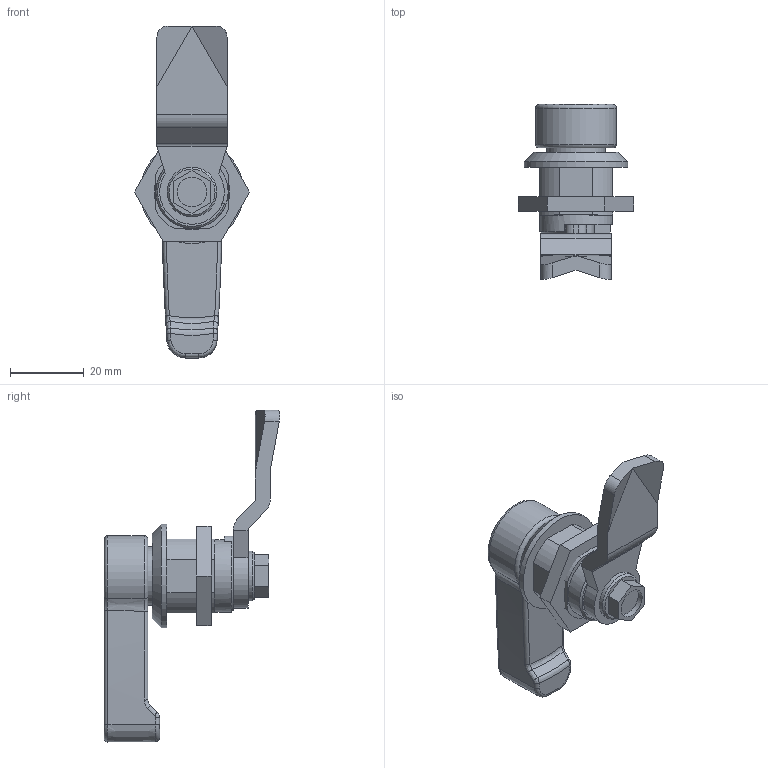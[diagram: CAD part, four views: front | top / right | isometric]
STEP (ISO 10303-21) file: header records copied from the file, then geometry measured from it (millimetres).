
FILE_DESCRIPTION (( 'STEP AP214' ), '1' );
FILE_NAME ('115-HGN-24-NI.step', '2022-04-28T06:14:22', ( '' ), ( '' ), 'SwSTEP 2.0', 'SolidWorks 2019', '' );
FILE_SCHEMA (( 'AUTOMOTIVE_DESIGN' ));
Length unit declared in the file: millimetre
Products named in the file (5): WB115_Zunge^WB115_BE_24; WB115_Gehäuse^WB115_BE_28; WB115_Betätigungswelle_Hebel^WB115_BE_HGN; 115-HGN-24-NI; WB115_Gegenmutter^WB115_BE
Assembly tree (4 placements, depth 2):
  115-HGN-24-NI
    WB115_Gehäuse^WB115_BE_28
    WB115_Betätigungswelle_Hebel^WB115_BE_HGN
    WB115_Zunge^WB115_BE_24
    WB115_Gegenmutter^WB115_BE
Bounding box: 31.18 x 47.59 x 89.99 mm (x, y, z)
Volume: 24783.8 mm3; surface area: 12223 mm2
Topology: 4 solids, 4 shells, 132 faces, 314 edges, 199 vertices
Faces by surface type: plane 67, cylinder 30, bspline 18, torus 10, cone 6, sphere 1
Full cylindrical faces by diameter (mm): 4 x1, 8 x1, 10 x2, 13.5 x1, 15.8 x1, 16 x2, 19.6 x1, 20.5 x1, 28 x1
Entity records: 4951 total; most frequent: CARTESIAN_POINT 1369, DIRECTION 596, ORIENTED_EDGE 592, EDGE_CURVE 296, AXIS2_PLACEMENT_3D 224, VERTEX_POINT 195, EDGE_LOOP 161, LINE 148
